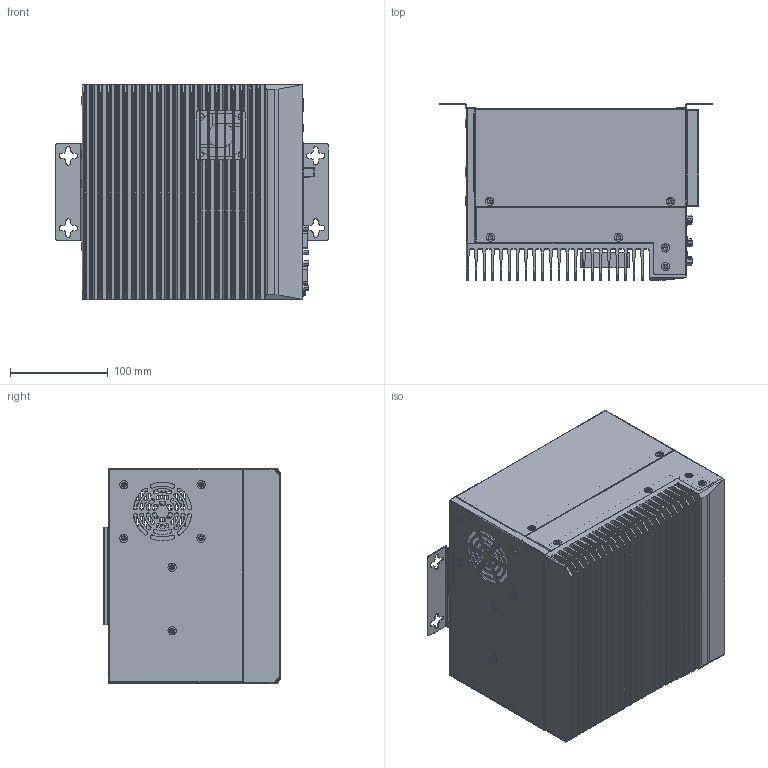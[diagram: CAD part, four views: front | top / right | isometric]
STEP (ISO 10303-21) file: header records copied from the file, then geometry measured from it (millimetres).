
FILE_DESCRIPTION (( 'STEP AP214' ), '1' );
FILE_NAME ('V335.STEP', '2023-08-18T01:50:56', ( '' ), ( '' ), 'SwSTEP 2.0', 'SolidWorks 2017', '' );
FILE_SCHEMA (( 'AUTOMOTIVE_DESIGN' ));
Length unit declared in the file: millimetre
Products named in the file (34): GB／T819．1-2000十字槽沉头螺钉M4×14; 4P-POWER_2; ZZJ_118; COVER-SECC_43; USB-2_1; RJ45-11_3; D-COM-H-9PIN_1_1; GB／T95-2002平垫圈C级3×0．5; TOP_99; GB823-88十字槽小盘头螺钉M3×5; RXE-2100_ASM_318_ASM; LED_1_1; POWER-11_1_1; 3PIN_1_1; POWER-SWITCH-1111_1_1; DP-DP_1_ASM; MANIFOLD_SOLID_BREP_38783; MB-IO-1_ASM_1_ASM; SUPPORT-SPCC_1_1; MANIFOLD_SOLID_BREP_38422; FAN-505015_5; 15-2L_4; ZZJ_ASM_9_ASM; _X2_FFFDFFFD0138_X0_1; V335; COM-9PIN_2; RIGHT-COVER_70; MB_ASM_10_ASM; 結え; USB-3-LAN_1_1; AUDIO_1_1; VGA_1_1; RIGHT-COVER_ASM_2_ASM; IO-COVER_65
Assembly tree (80 placements, depth 5):
  V335
    RXE-2100_ASM_318_ASM
      TOP_99
      MB_ASM_10_ASM
        3PIN_1_1
        AUDIO_1_1
        USB-3-LAN_1_1  x3
        DP-DP_1_ASM
          MANIFOLD_SOLID_BREP_38422
          MANIFOLD_SOLID_BREP_38783
        VGA_1_1
        LED_1_1
        POWER-SWITCH-1111_1_1
        D-COM-H-9PIN_1_1
        POWER-11_1_1
      MB-IO-1_ASM_1_ASM
        4P-POWER_2
      ZZJ_ASM_9_ASM
        ZZJ_118
      IO-COVER_65
      RIGHT-COVER_ASM_2_ASM
        RIGHT-COVER_70
        15-2L_4  x6
      COVER-SECC_43
      SUPPORT-SPCC_1_1  x2
      FAN-505015_5
    _X2_FFFDFFFD0138_X0_1  x10
    GB／T819．1-2000十字槽沉头螺钉M4×14  x24
    GB／T95-2002平垫圈C级3×0．5
    GB823-88十字槽小盘头螺钉M3×5
    結え  x4
    COM-9PIN_2  x2
    USB-2_1  x2
    RJ45-11_3  x3
Bounding box: 279.2 x 181 x 220.2 mm (x, y, z)
Volume: 978080.2 mm3; surface area: 901452.8 mm2
Topology: 74 solids, 74 shells, 4465 faces, 10903 edges, 6874 vertices
Faces by surface type: plane 2296, cylinder 1748, cone 208, bspline 161, torus 50, sphere 2
Entity records: 119088 total; most frequent: CARTESIAN_POINT 31342, ORIENTED_EDGE 15314, DIRECTION 15042, EDGE_CURVE 7657, AXIS2_PLACEMENT_3D 5219, VERTEX_POINT 4963, VECTOR 4604, LINE 4604
